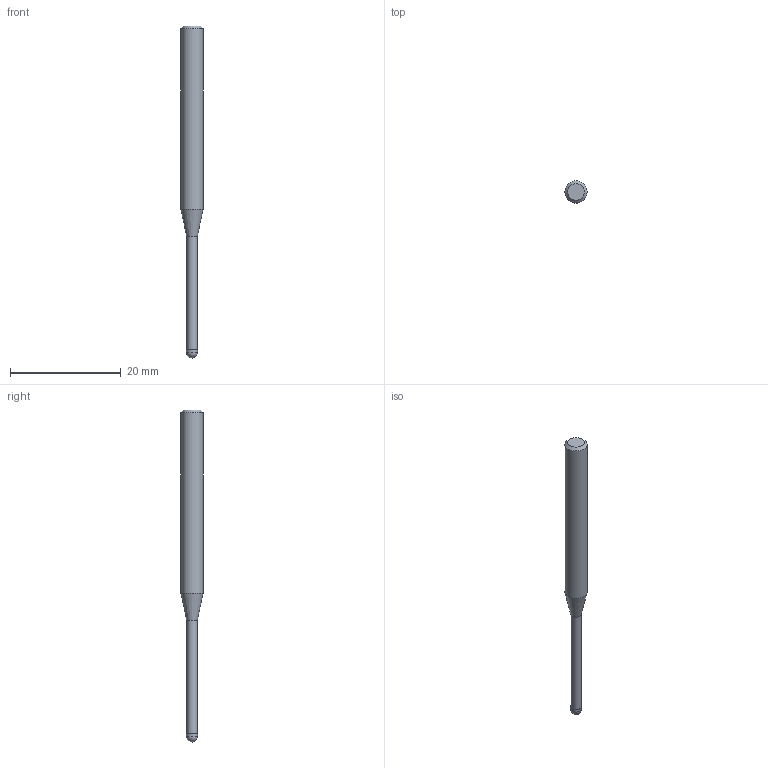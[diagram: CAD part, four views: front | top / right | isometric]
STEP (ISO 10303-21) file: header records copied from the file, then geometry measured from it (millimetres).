
FILE_DESCRIPTION((''),'2;1');
FILE_NAME('C:\Users\nsx150\AppData\Local\Temp\Mastercam 2021\3SYKECWX22\TEMP.step','2021-04-22T10:04:21',(''),(''),'STEP Write','Mastercam 2021 ... CNC Software, Inc.','');
FILE_SCHEMA(('AUTOMOTIVE_DESIGN'));
Length unit declared in the file: millimetre
Products named in the file (1): None
Bounding box: 4 x 4 x 60 mm (x, y, z)
Volume: 514.4 mm3; surface area: 611.9 mm2
Topology: 2 solids, 2 shells, 9 faces, 14 edges, 8 vertices
Faces by surface type: plane 3, cylinder 3, cone 2, sphere 1
Full cylindrical faces by diameter (mm): 1.94 x1, 2 x1, 4 x1
Entity records: 211 total; most frequent: DIRECTION 36, CARTESIAN_POINT 25, AXIS2_PLACEMENT_3D 18, ORIENTED_EDGE 14, EDGE_LOOP 14, STYLED_ITEM 12, ADVANCED_FACE 9, FACE_BOUND 8
